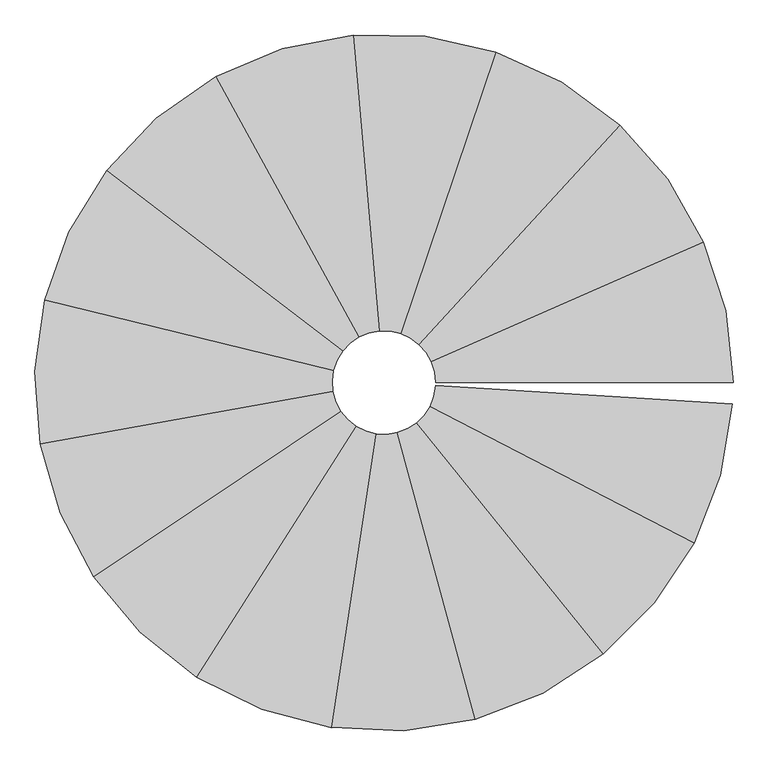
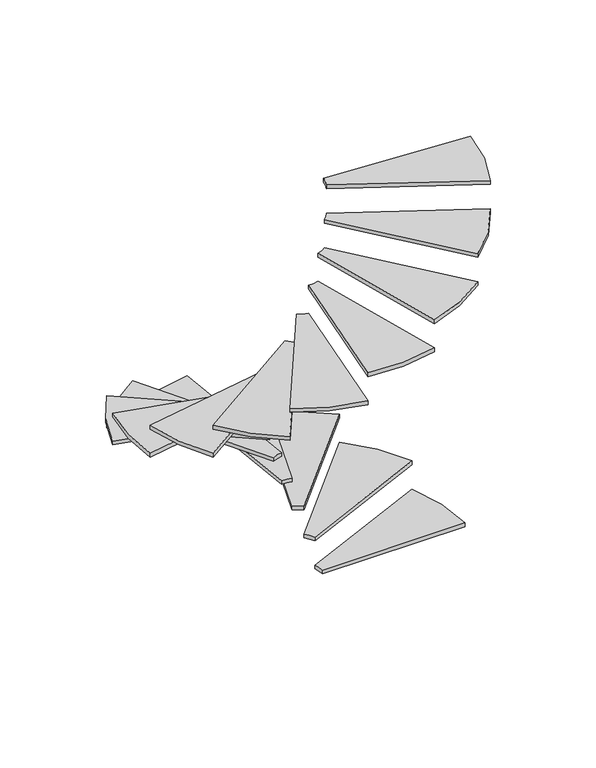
"""IFC4 building model written with IfcOpenShell, lengths in millimetres: stair flight geometry."""

from ifc_helpers import new_model, si_unit, point, frame, frame_2d, origin, place, context, project, spatial, polyline, circle_curve, trimmed, segment, composite_curve, outline, extrude, source, transform, mapped, element, save


def stair_flight_36799c1e(model_context):
    return source(origin(), model_context, "Body", "SweptSolid", [
        extrude(outline(composite_curve([segment(polyline([(-16307.204916, -13810.5514158), (-15470.3207789, -13442.1056245)]), True, "CONTINUOUS"), segment(trimmed(circle_curve(frame_2d((-16453.3365602, -13874.8871906)), 1074.0669952), [point((-15470.3207789, -13442.1056245))], [point((-15379.269565, -13874.8871906))], False, "CARTESIAN"), True, "CONTINUOUS"), segment(polyline([(-15379.269565, -13874.8871906), (-16293.669565, -13874.8871906)]), True, "CONTINUOUS"), segment(trimmed(circle_curve(frame_2d((-16453.3365602, -13874.8871906)), 159.6669952), [point((-16293.669565, -13874.8871906))], [point((-16307.204916, -13810.5514158))], True, "CARTESIAN"), True, "CONTINUOUS")], self_intersect=False)), frame((0.0, 0.0, 165.1), z_axis=(0.0, 0.0, 1.0), x_axis=(1.0, 0.0, 0.0)), (0.0, 0.0, 1.0), 25.4),
        extrude(outline(composite_curve([segment(polyline([(-16345.5161211, -13757.1234344), (-15728.0371647, -13082.699904)]), True, "CONTINUOUS"), segment(trimmed(circle_curve(frame_2d((-16453.3365602, -13874.8871906)), 1074.0669952), [point((-15728.0371647, -13082.699904))], [point((-15470.3207789, -13442.1056245))], False, "CARTESIAN"), True, "CONTINUOUS"), segment(polyline([(-15470.3207789, -13442.1056245), (-16307.204916, -13810.5514158)]), True, "CONTINUOUS"), segment(trimmed(circle_curve(frame_2d((-16453.3365602, -13874.8871906)), 159.6669952), [point((-16307.204916, -13810.5514158))], [point((-16345.5161211, -13757.1234344))], True, "CARTESIAN"), True, "CONTINUOUS")], self_intersect=False)), frame((0.0, 0.0, 355.6), z_axis=(0.0, 0.0, 1.0), x_axis=(1.0, 0.0, 0.0)), (0.0, 0.0, 1.0), 25.4),
        extrude(outline(composite_curve([segment(polyline([(-16402.1077163, -13723.6616805), (-16108.7242603, -12857.6053845)]), True, "CONTINUOUS"), segment(trimmed(circle_curve(frame_2d((-16453.3365602, -13874.8871906)), 1074.0669952), [point((-16108.7242603, -12857.6053845))], [point((-15728.0371647, -13082.699904))], False, "CARTESIAN"), True, "CONTINUOUS"), segment(polyline([(-15728.0371647, -13082.699904), (-16345.5161211, -13757.1234344)]), True, "CONTINUOUS"), segment(trimmed(circle_curve(frame_2d((-16453.3365602, -13874.8871906)), 159.6669952), [point((-16345.5161211, -13757.1234344))], [point((-16402.1077163, -13723.6616805))], True, "CARTESIAN"), True, "CONTINUOUS")], self_intersect=False)), frame((0.0, 0.0, 546.1), z_axis=(0.0, 0.0, 1.0), x_axis=(1.0, 0.0, 0.0)), (0.0, 0.0, 1.0), 25.4),
        extrude(outline(composite_curve([segment(polyline([(-16467.3848935, -13715.8394188), (-16547.8385645, -12804.9856618)]), True, "CONTINUOUS"), segment(trimmed(circle_curve(frame_2d((-16453.3365602, -13874.8871906)), 1074.0669952), [point((-16547.8385645, -12804.9856618))], [point((-16108.7242603, -12857.6053845))], False, "CARTESIAN"), True, "CONTINUOUS"), segment(polyline([(-16108.7242603, -12857.6053845), (-16402.1077163, -13723.6616805)]), True, "CONTINUOUS"), segment(trimmed(circle_curve(frame_2d((-16453.3365602, -13874.8871906)), 159.6669952), [point((-16402.1077163, -13723.6616805))], [point((-16467.3848935, -13715.8394188))], True, "CARTESIAN"), True, "CONTINUOUS")], self_intersect=False)), frame((0.0, 0.0, 736.6), z_axis=(0.0, 0.0, 1.0), x_axis=(1.0, 0.0, 0.0)), (0.0, 0.0, 1.0), 25.4),
        extrude(outline(composite_curve([segment(polyline([(-16530.2802494, -13734.9828731), (-16970.9305494, -12933.7621338)]), True, "CONTINUOUS"), segment(trimmed(circle_curve(frame_2d((-16453.3365602, -13874.8871906)), 1074.0669952), [point((-16970.9305494, -12933.7621338))], [point((-16547.8385645, -12804.9856618))], False, "CARTESIAN"), True, "CONTINUOUS"), segment(polyline([(-16547.8385645, -12804.9856618), (-16467.3848935, -13715.8394188)]), True, "CONTINUOUS"), segment(trimmed(circle_curve(frame_2d((-16453.3365602, -13874.8871906)), 159.6669952), [point((-16467.3848935, -13715.8394188))], [point((-16530.2802494, -13734.9828731))], True, "CARTESIAN"), True, "CONTINUOUS")], self_intersect=False)), frame((0.0, 0.0, 927.1), z_axis=(0.0, 0.0, 1.0), x_axis=(1.0, 0.0, 0.0)), (0.0, 0.0, 1.0), 25.4),
        extrude(outline(composite_curve([segment(polyline([(-16580.1302062, -13777.8463708), (-17306.2671872, -13222.101425)]), True, "CONTINUOUS"), segment(trimmed(circle_curve(frame_2d((-16453.3365602, -13874.8871906)), 1074.0669952), [point((-17306.2671872, -13222.101425))], [point((-16970.9305494, -12933.7621338))], False, "CARTESIAN"), True, "CONTINUOUS"), segment(polyline([(-16970.9305494, -12933.7621338), (-16530.2802494, -13734.9828731)]), True, "CONTINUOUS"), segment(trimmed(circle_curve(frame_2d((-16453.3365602, -13874.8871906)), 159.6669952), [point((-16530.2802494, -13734.9828731))], [point((-16580.1302062, -13777.8463708))], True, "CARTESIAN"), True, "CONTINUOUS")], self_intersect=False)), frame((0.0, 0.0, 1117.6), z_axis=(0.0, 0.0, 1.0), x_axis=(1.0, 0.0, 0.0)), (0.0, 0.0, 1.0), 25.4),
        extrude(outline(composite_curve([segment(polyline([(-16608.4829651, -13837.1626307), (-17496.9939089, -13621.1171202)]), True, "CONTINUOUS"), segment(trimmed(circle_curve(frame_2d((-16453.3365602, -13874.8871906)), 1074.0669952), [point((-17496.9939089, -13621.1171202))], [point((-17306.2671872, -13222.101425))], False, "CARTESIAN"), True, "CONTINUOUS"), segment(polyline([(-17306.2671872, -13222.101425), (-16580.1302062, -13777.8463708)]), True, "CONTINUOUS"), segment(trimmed(circle_curve(frame_2d((-16453.3365602, -13874.8871906)), 159.6669952), [point((-16580.1302062, -13777.8463708))], [point((-16608.4829651, -13837.1626307))], True, "CARTESIAN"), True, "CONTINUOUS")], self_intersect=False)), frame((0.0, 0.0, 1308.1), z_axis=(0.0, 0.0, 1.0), x_axis=(1.0, 0.0, 0.0)), (0.0, 0.0, 1.0), 25.4),
        extrude(outline(composite_curve([segment(polyline([(-16610.5314645, -13902.874892), (-17510.773999, -14063.1582004)]), True, "CONTINUOUS"), segment(trimmed(circle_curve(frame_2d((-16453.3365602, -13874.8871906)), 1074.0669952), [point((-17510.773999, -14063.1582004))], [point((-17496.9939089, -13621.1171202))], False, "CARTESIAN"), True, "CONTINUOUS"), segment(polyline([(-17496.9939089, -13621.1171202), (-16608.4829651, -13837.1626307)]), True, "CONTINUOUS"), segment(trimmed(circle_curve(frame_2d((-16453.3365602, -13874.8871906)), 159.6669952), [point((-16608.4829651, -13837.1626307))], [point((-16610.5314645, -13902.874892))], True, "CARTESIAN"), True, "CONTINUOUS")], self_intersect=False)), frame((0.0, 0.0, 1498.6), z_axis=(0.0, 0.0, 1.0), x_axis=(1.0, 0.0, 0.0)), (0.0, 0.0, 1.0), 25.4),
        extrude(outline(composite_curve([segment(polyline([(-16585.928392, -13963.8419853), (-17345.2711154, -14473.2789179)]), True, "CONTINUOUS"), segment(trimmed(circle_curve(frame_2d((-16453.3365602, -13874.8871906)), 1074.0669952), [point((-17345.2711154, -14473.2789179))], [point((-17510.773999, -14063.1582004))], False, "CARTESIAN"), True, "CONTINUOUS"), segment(polyline([(-17510.773999, -14063.1582004), (-16610.5314645, -13902.874892)]), True, "CONTINUOUS"), segment(trimmed(circle_curve(frame_2d((-16453.3365602, -13874.8871906)), 159.6669952), [point((-16610.5314645, -13902.874892))], [point((-16585.928392, -13963.8419853))], True, "CARTESIAN"), True, "CONTINUOUS")], self_intersect=False)), frame((0.0, 0.0, 1689.1), z_axis=(0.0, 0.0, 1.0), x_axis=(1.0, 0.0, 0.0)), (0.0, 0.0, 1.0), 25.4),
        extrude(outline(composite_curve([segment(polyline([(-16538.8450696, -14009.7272594), (-17028.5454043, -14781.9454554)]), True, "CONTINUOUS"), segment(trimmed(circle_curve(frame_2d((-16453.3365602, -13874.8871906)), 1074.0669952), [point((-17028.5454043, -14781.9454554))], [point((-17345.2711154, -14473.2789179))], False, "CARTESIAN"), True, "CONTINUOUS"), segment(polyline([(-17345.2711154, -14473.2789179), (-16585.928392, -13963.8419853)]), True, "CONTINUOUS"), segment(trimmed(circle_curve(frame_2d((-16453.3365602, -13874.8871906)), 159.6669952), [point((-16585.928392, -13963.8419853))], [point((-16538.8450696, -14009.7272594))], True, "CARTESIAN"), True, "CONTINUOUS")], self_intersect=False)), frame((0.0, 0.0, 1879.6), z_axis=(0.0, 0.0, 1.0), x_axis=(1.0, 0.0, 0.0)), (0.0, 0.0, 1.0), 25.4),
        extrude(outline(composite_curve([segment(polyline([(-16477.2642278, -14032.7511069), (-16614.2960494, -14936.8250197)]), True, "CONTINUOUS"), segment(trimmed(circle_curve(frame_2d((-16453.3365602, -13874.8871906)), 1074.0669952), [point((-16614.2960494, -14936.8250197))], [point((-17028.5454043, -14781.9454554))], False, "CARTESIAN"), True, "CONTINUOUS"), segment(polyline([(-17028.5454043, -14781.9454554), (-16538.8450696, -14009.7272594)]), True, "CONTINUOUS"), segment(trimmed(circle_curve(frame_2d((-16453.3365602, -13874.8871906)), 159.6669952), [point((-16538.8450696, -14009.7272594))], [point((-16477.2642278, -14032.7511069))], True, "CARTESIAN"), True, "CONTINUOUS")], self_intersect=False)), frame((0.0, 0.0, 2070.1), z_axis=(0.0, 0.0, 1.0), x_axis=(1.0, 0.0, 0.0)), (0.0, 0.0, 1.0), 25.4),
        extrude(outline(composite_curve([segment(polyline([(-16411.6265754, -14029.009955), (-16172.7568571, -14911.6585927)]), True, "CONTINUOUS"), segment(trimmed(circle_curve(frame_2d((-16453.3365602, -13874.8871906)), 1074.0669952), [point((-16172.7568571, -14911.6585927))], [point((-16614.2960494, -14936.8250197))], False, "CARTESIAN"), True, "CONTINUOUS"), segment(polyline([(-16614.2960494, -14936.8250197), (-16477.2642278, -14032.7511069)]), True, "CONTINUOUS"), segment(trimmed(circle_curve(frame_2d((-16453.3365602, -13874.8871906)), 159.6669952), [point((-16477.2642278, -14032.7511069))], [point((-16411.6265754, -14029.009955))], True, "CARTESIAN"), True, "CONTINUOUS")], self_intersect=False)), frame((0.0, 0.0, 2260.6), z_axis=(0.0, 0.0, 1.0), x_axis=(1.0, 0.0, 0.0)), (0.0, 0.0, 1.0), 25.4),
        extrude(outline(composite_curve([segment(polyline([(-16353.0606322, -13999.1380964), (-15778.7884823, -14710.7130102)]), True, "CONTINUOUS"), segment(trimmed(circle_curve(frame_2d((-16453.3365602, -13874.8871906)), 1074.0669952), [point((-15778.7884823, -14710.7130102))], [point((-16172.7568571, -14911.6585927))], False, "CARTESIAN"), True, "CONTINUOUS"), segment(polyline([(-16172.7568571, -14911.6585927), (-16411.6265754, -14029.009955)]), True, "CONTINUOUS"), segment(trimmed(circle_curve(frame_2d((-16453.3365602, -13874.8871906)), 159.6669952), [point((-16411.6265754, -14029.009955))], [point((-16353.0606322, -13999.1380964))], True, "CARTESIAN"), True, "CONTINUOUS")], self_intersect=False)), frame((0.0, 0.0, 2451.1), z_axis=(0.0, 0.0, 1.0), x_axis=(1.0, 0.0, 0.0)), (0.0, 0.0, 1.0), 25.4),
        extrude(outline(composite_curve([segment(polyline([(-16311.4959469, -13948.2001482), (-15499.1861976, -14368.0575421)]), True, "CONTINUOUS"), segment(trimmed(circle_curve(frame_2d((-16453.3365602, -13874.8871906)), 1074.0669952), [point((-15499.1861976, -14368.0575421))], [point((-15778.7884823, -14710.7130102))], False, "CARTESIAN"), True, "CONTINUOUS"), segment(polyline([(-15778.7884823, -14710.7130102), (-16353.0606322, -13999.1380964)]), True, "CONTINUOUS"), segment(trimmed(circle_curve(frame_2d((-16453.3365602, -13874.8871906)), 159.6669952), [point((-16353.0606322, -13999.1380964))], [point((-16311.4959469, -13948.2001482))], True, "CARTESIAN"), True, "CONTINUOUS")], self_intersect=False)), frame((0.0, 0.0, 2641.6), z_axis=(0.0, 0.0, 1.0), x_axis=(1.0, 0.0, 0.0)), (0.0, 0.0, 1.0), 25.4),
        extrude(outline(composite_curve([segment(polyline([(-16293.9795939, -13884.8323724), (-15381.3551043, -13941.7876265)]), True, "CONTINUOUS"), segment(trimmed(circle_curve(frame_2d((-16453.3365602, -13874.8871906)), 1074.0669952), [point((-15381.3551043, -13941.7876265))], [point((-15499.1861976, -14368.0575421))], False, "CARTESIAN"), True, "CONTINUOUS"), segment(polyline([(-15499.1861976, -14368.0575421), (-16311.4959469, -13948.2001482)]), True, "CONTINUOUS"), segment(trimmed(circle_curve(frame_2d((-16453.3365602, -13874.8871906)), 159.6669952), [point((-16311.4959469, -13948.2001482))], [point((-16293.9795939, -13884.8323724))], True, "CARTESIAN"), True, "CONTINUOUS")], self_intersect=False)), frame((0.0, 0.0, 2832.1), z_axis=(0.0, 0.0, 1.0), x_axis=(1.0, 0.0, 0.0)), (0.0, 0.0, 1.0), 25.4),
    ])


if __name__ == "__main__":
    model = new_model("IFC4")
    model_context = context("Model", 3, world=origin())
    ifc_project = project(units=[si_unit("LENGTHUNIT", "METRE", prefix="MILLI")], contexts=[model_context])
    site = spatial("IfcSite", under=ifc_project)
    building = spatial("IfcBuilding", under=site)
    placement = place(None, origin())
    stair_flight_shape = stair_flight_36799c1e(model_context)
    element("IfcStairFlight", 1, ObjectType="Unassigned Steps with 1\" Tread", at=placement, inside=building, context=model_context, shape_type="MappedRepresentation", body=[
        mapped(stair_flight_shape, transform((0.0, 0.0, 0.0), x_axis=(1.0, 0.0, 0.0), y_axis=(0.0, 1.0, 0.0), z_axis=(0.0, 0.0, 1.0))),
    ])
    save(model, "model.ifc")
